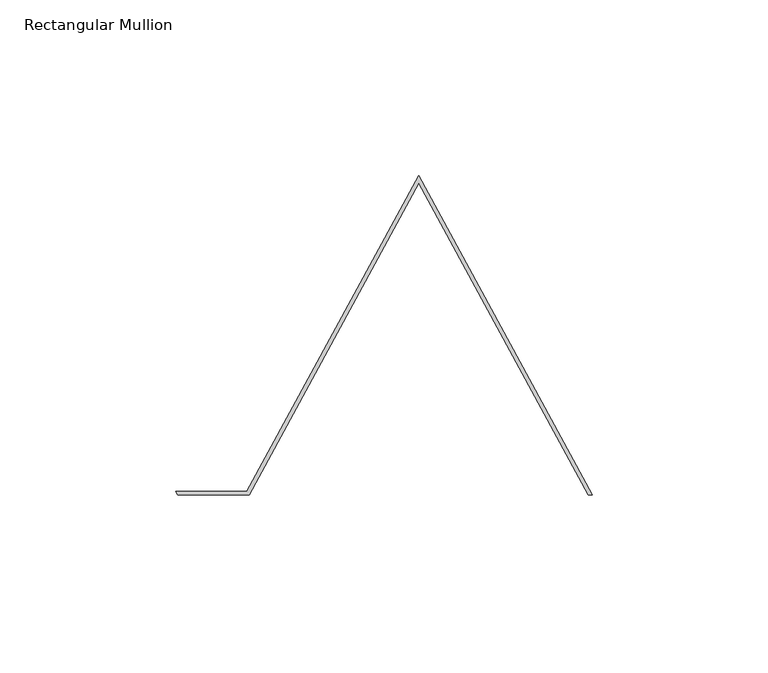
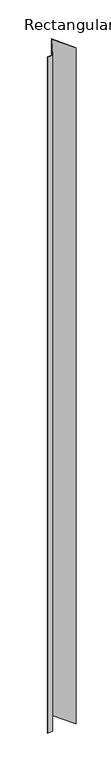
"""IFC4 building model written with IfcOpenShell, lengths in millimetres: member geometry, Rectangular Mullion : CD_NINELINE_Pleat Start Intermediate."""

from ifc_helpers import new_model, si_unit, frame, origin, place, context, project, spatial, polyline, outline, extrude, source, transform, mapped, element, save


def rectangular_mullion_400fe68b(model_context):
    return source(origin(), model_context, "Body", "SweptSolid", [
        extrude(outline(polyline([(0.4089599, 0.0), (-0.1339862, 1.0), (20.133987, 1.0), (69.0, 91.0), (118.4089687, 0.0), (117.2688403, 0.0), (68.9999476, 88.9018164), (20.7310548, 0.0), (0.4089599, 0.0)])), frame((0.0, 0.0, -2947.0), z_axis=(0.0, 0.0, 1.0), x_axis=(1.0, 0.0, 0.0)), (0.0, 0.0, 1.0), 2947.0),
    ])


if __name__ == "__main__":
    model = new_model("IFC4")
    model_context = context("Model", 3, world=origin())
    ifc_project = project(units=[si_unit("LENGTHUNIT", "METRE", prefix="MILLI")], contexts=[model_context])
    site = spatial("IfcSite", under=ifc_project)
    building = spatial("IfcBuilding", under=site)
    placement = place(None, origin())
    rectangular_mullion_shape = rectangular_mullion_400fe68b(model_context)
    element("IfcMember", 1, ObjectType="Rectangular Mullion : CD_NINELINE_Pleat Start Intermediate", at=placement, inside=building, context=model_context, shape_type="MappedRepresentation", body=[
        mapped(rectangular_mullion_shape, transform((0.0, 0.0, 0.0), x_axis=(1.0, 0.0, 0.0), y_axis=(0.0, 1.0, 0.0), z_axis=(0.0, 0.0, 1.0))),
    ])
    save(model, "model.ifc")
